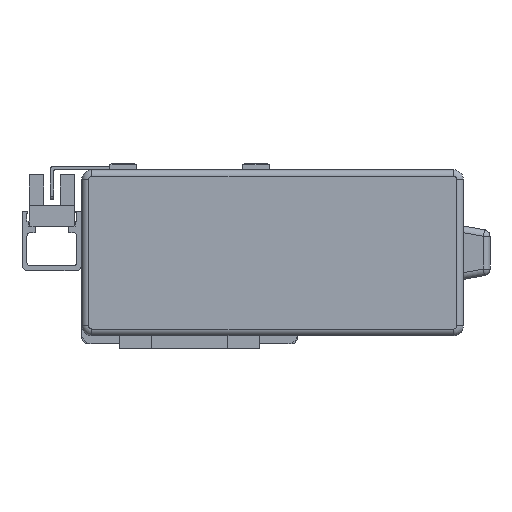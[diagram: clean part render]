
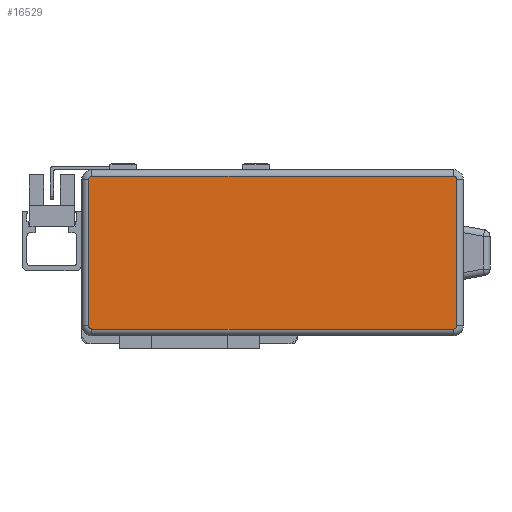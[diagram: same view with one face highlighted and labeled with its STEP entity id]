
A CAD part, left-side view. The second image highlights one B-rep face of the part: STEP entity #16529.
In plain terms, the highlighted planar face has unit normal (-1, 0, 0) as drawn and (0, 0, 1) by its records, which use the part's own axes.
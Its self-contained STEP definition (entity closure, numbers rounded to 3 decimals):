
#1165 = PLANE ( 'NONE',  #16542 ) ;
#1284 = FACE_OUTER_BOUND ( 'NONE', #23745, .T. ) ;
#1734 = VERTEX_POINT ( 'NONE', #2551 ) ;
#2551 = CARTESIAN_POINT ( 'NONE',  ( 55.5, -22., 40. ) ) ;
#3060 = EDGE_CURVE ( 'NONE', #9202, #15287, #26356, .T. ) ;
#3129 = CARTESIAN_POINT ( 'NONE',  ( -55.5, -22., 40. ) ) ;
#3207 = CIRCLE ( 'NONE', #16012, 1. ) ;
#4003 = ORIENTED_EDGE ( 'NONE', *, *, #5740, .T. ) ;
#4209 = EDGE_CURVE ( 'NONE', #23426, #15229, #21118, .T. ) ;
#4223 = EDGE_CURVE ( 'NONE', #22554, #1734, #14969, .T. ) ;
#4234 = CARTESIAN_POINT ( 'NONE',  ( 0., 23., 40. ) ) ;
#4746 = VECTOR ( 'NONE', #4761, 1000. ) ;
#4761 = DIRECTION ( 'NONE',  ( 1., 0., 0. ) ) ;
#5003 = CARTESIAN_POINT ( 'NONE',  ( -55.5, 0., 40. ) ) ;
#5348 = AXIS2_PLACEMENT_3D ( 'NONE', #6429, #20907, #8506 ) ;
#5740 = EDGE_CURVE ( 'NONE', #1734, #26720, #12930, .T. ) ;
#6216 = CARTESIAN_POINT ( 'NONE',  ( 55.5, 22., 40. ) ) ;
#6429 = CARTESIAN_POINT ( 'NONE',  ( 54.5, -22., 40. ) ) ;
#7060 = DIRECTION ( 'NONE',  ( 0., 0., 1. ) ) ;
#7083 = DIRECTION ( 'NONE',  ( 0., 1., 0. ) ) ;
#7118 = DIRECTION ( 'NONE',  ( 0., -1., 0. ) ) ;
#7430 = DIRECTION ( 'NONE',  ( -1., 0., 0. ) ) ;
#8506 = DIRECTION ( 'NONE',  ( -1., 0., 0. ) ) ;
#8515 = CARTESIAN_POINT ( 'NONE',  ( -55.5, 22., 40. ) ) ;
#9100 = DIRECTION ( 'NONE',  ( 0., 0., 1. ) ) ;
#9202 = VERTEX_POINT ( 'NONE', #8515 ) ;
#9649 = ORIENTED_EDGE ( 'NONE', *, *, #15760, .T. ) ;
#10466 = ORIENTED_EDGE ( 'NONE', *, *, #4223, .T. ) ;
#10890 = LINE ( 'NONE', #19236, #4746 ) ;
#10904 = CARTESIAN_POINT ( 'NONE',  ( 54.5, 22., 40. ) ) ;
#11355 = ORIENTED_EDGE ( 'NONE', *, *, #18412, .T. ) ;
#11377 = CARTESIAN_POINT ( 'NONE',  ( -54.5, 23., 40. ) ) ;
#12930 = LINE ( 'NONE', #23629, #15532 ) ;
#12992 = DIRECTION ( 'NONE',  ( -1., 0., 0. ) ) ;
#14969 = CIRCLE ( 'NONE', #5348, 1. ) ;
#15229 = VERTEX_POINT ( 'NONE', #11377 ) ;
#15287 = VERTEX_POINT ( 'NONE', #3129 ) ;
#15532 = VECTOR ( 'NONE', #7083, 1000. ) ;
#15684 = AXIS2_PLACEMENT_3D ( 'NONE', #10904, #25408, #12992 ) ;
#15707 = ORIENTED_EDGE ( 'NONE', *, *, #3060, .T. ) ;
#15760 = EDGE_CURVE ( 'NONE', #15287, #23019, #18168, .T. ) ;
#15988 = VECTOR ( 'NONE', #7118, 1000. ) ;
#16012 = AXIS2_PLACEMENT_3D ( 'NONE', #19436, #7060, #21528 ) ;
#16529 = ADVANCED_FACE ( 'NONE', ( #1284 ), #1165, .F. ) ;
#16542 = AXIS2_PLACEMENT_3D ( 'NONE', #21804, #19807, #7430 ) ;
#16917 = EDGE_CURVE ( 'NONE', #15229, #9202, #3207, .T. ) ;
#17729 = CARTESIAN_POINT ( 'NONE',  ( 54.5, -23., 40. ) ) ;
#18168 = CIRCLE ( 'NONE', #22230, 1. ) ;
#18412 = EDGE_CURVE ( 'NONE', #26720, #23426, #22557, .T. ) ;
#18424 = EDGE_CURVE ( 'NONE', #23019, #22554, #10890, .T. ) ;
#18730 = DIRECTION ( 'NONE',  ( -1., 0., 0. ) ) ;
#19236 = CARTESIAN_POINT ( 'NONE',  ( 0., -23., 40. ) ) ;
#19436 = CARTESIAN_POINT ( 'NONE',  ( -54.5, 22., 40. ) ) ;
#19807 = DIRECTION ( 'NONE',  ( 0., 0., -1. ) ) ;
#20456 = VECTOR ( 'NONE', #18730, 1000. ) ;
#20907 = DIRECTION ( 'NONE',  ( 0., 0., 1. ) ) ;
#21118 = LINE ( 'NONE', #4234, #20456 ) ;
#21244 = CARTESIAN_POINT ( 'NONE',  ( -54.5, -23., 40. ) ) ;
#21488 = CARTESIAN_POINT ( 'NONE',  ( -54.5, -22., 40. ) ) ;
#21528 = DIRECTION ( 'NONE',  ( -1., 0., 0. ) ) ;
#21574 = ORIENTED_EDGE ( 'NONE', *, *, #18424, .T. ) ;
#21804 = CARTESIAN_POINT ( 'NONE',  ( 0., 0., 40. ) ) ;
#22230 = AXIS2_PLACEMENT_3D ( 'NONE', #21488, #9100, #23568 ) ;
#22554 = VERTEX_POINT ( 'NONE', #17729 ) ;
#22557 = CIRCLE ( 'NONE', #15684, 1. ) ;
#23019 = VERTEX_POINT ( 'NONE', #21244 ) ;
#23426 = VERTEX_POINT ( 'NONE', #24335 ) ;
#23568 = DIRECTION ( 'NONE',  ( -1., 0., 0. ) ) ;
#23629 = CARTESIAN_POINT ( 'NONE',  ( 55.5, 0., 40. ) ) ;
#23745 = EDGE_LOOP ( 'NONE', ( #21574, #10466, #4003, #11355, #24926, #24008, #15707, #9649 ) ) ;
#24008 = ORIENTED_EDGE ( 'NONE', *, *, #16917, .T. ) ;
#24335 = CARTESIAN_POINT ( 'NONE',  ( 54.5, 23., 40. ) ) ;
#24926 = ORIENTED_EDGE ( 'NONE', *, *, #4209, .T. ) ;
#25408 = DIRECTION ( 'NONE',  ( 0., 0., 1. ) ) ;
#26356 = LINE ( 'NONE', #5003, #15988 ) ;
#26720 = VERTEX_POINT ( 'NONE', #6216 ) ;
